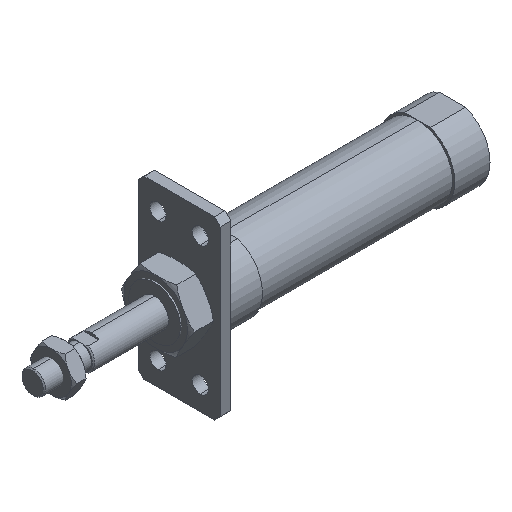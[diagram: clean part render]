
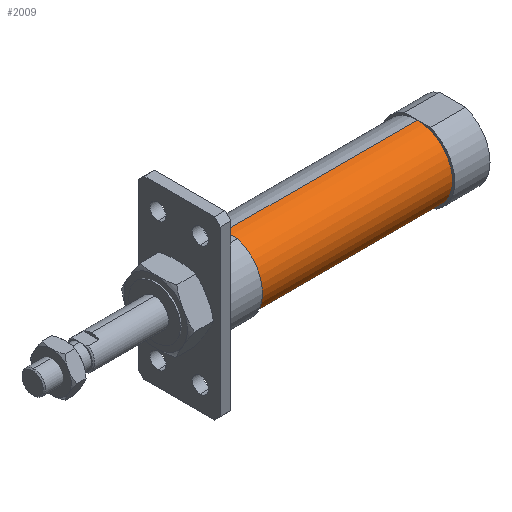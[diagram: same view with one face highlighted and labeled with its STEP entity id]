
A CAD part, isometric view. The second image highlights one B-rep face of the part: STEP entity #2009.
In plain terms, the highlighted cylindrical face has radius 15 mm (diameter 30 mm), a partial arc.
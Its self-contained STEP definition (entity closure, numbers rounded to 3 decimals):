
#61 = LINE ( 'NONE', #746, #245 ) ;
#204 = CARTESIAN_POINT ( 'NONE',  ( 82., 0., 15. ) ) ;
#245 = VECTOR ( 'NONE', #2481, 1000. ) ;
#272 = DIRECTION ( 'NONE',  ( 0., 0., 1. ) ) ;
#408 = EDGE_LOOP ( 'NONE', ( #831, #2339, #1787, #1742 ) ) ;
#493 = DIRECTION ( 'NONE',  ( -1., 0., 0. ) ) ;
#548 = CARTESIAN_POINT ( 'NONE',  ( 164., 0., -15. ) ) ;
#628 = DIRECTION ( 'NONE',  ( -1., 0., 0. ) ) ;
#646 = AXIS2_PLACEMENT_3D ( 'NONE', #1423, #817, #272 ) ;
#746 = CARTESIAN_POINT ( 'NONE',  ( -6.469, 0., 15. ) ) ;
#771 = LINE ( 'NONE', #2212, #1991 ) ;
#817 = DIRECTION ( 'NONE',  ( -1., 0., 0. ) ) ;
#831 = ORIENTED_EDGE ( 'NONE', *, *, #1826, .F. ) ;
#868 = EDGE_CURVE ( 'NONE', #2160, #1705, #2725, .T. ) ;
#995 = CYLINDRICAL_SURFACE ( 'NONE', #646, 15. ) ;
#1048 = CARTESIAN_POINT ( 'NONE',  ( 164., 0., 0. ) ) ;
#1311 = AXIS2_PLACEMENT_3D ( 'NONE', #1048, #3393, #1915 ) ;
#1357 = CIRCLE ( 'NONE', #1311, 15. ) ;
#1423 = CARTESIAN_POINT ( 'NONE',  ( -6.469, 0., 0. ) ) ;
#1457 = EDGE_CURVE ( 'NONE', #3163, #1705, #61, .T. ) ;
#1564 = CARTESIAN_POINT ( 'NONE',  ( 164., 0., 15. ) ) ;
#1705 = VERTEX_POINT ( 'NONE', #204 ) ;
#1737 = CARTESIAN_POINT ( 'NONE',  ( 82., 0., -15. ) ) ;
#1742 = ORIENTED_EDGE ( 'NONE', *, *, #868, .F. ) ;
#1787 = ORIENTED_EDGE ( 'NONE', *, *, #1457, .T. ) ;
#1801 = EDGE_CURVE ( 'NONE', #1885, #3163, #1357, .T. ) ;
#1826 = EDGE_CURVE ( 'NONE', #1885, #2160, #771, .T. ) ;
#1885 = VERTEX_POINT ( 'NONE', #548 ) ;
#1915 = DIRECTION ( 'NONE',  ( 0., 0., 1. ) ) ;
#1991 = VECTOR ( 'NONE', #493, 1000. ) ;
#2009 = ADVANCED_FACE ( 'NONE', ( #3449 ), #995, .T. ) ;
#2160 = VERTEX_POINT ( 'NONE', #1737 ) ;
#2212 = CARTESIAN_POINT ( 'NONE',  ( -6.469, 0., -15. ) ) ;
#2339 = ORIENTED_EDGE ( 'NONE', *, *, #1801, .T. ) ;
#2342 = CARTESIAN_POINT ( 'NONE',  ( 82., 0., 0. ) ) ;
#2481 = DIRECTION ( 'NONE',  ( -1., 0., 0. ) ) ;
#2725 = CIRCLE ( 'NONE', #3229, 15. ) ;
#3163 = VERTEX_POINT ( 'NONE', #1564 ) ;
#3210 = DIRECTION ( 'NONE',  ( 0., 0., 1. ) ) ;
#3229 = AXIS2_PLACEMENT_3D ( 'NONE', #2342, #628, #3210 ) ;
#3393 = DIRECTION ( 'NONE',  ( -1., 0., 0. ) ) ;
#3449 = FACE_OUTER_BOUND ( 'NONE', #408, .T. ) ;
